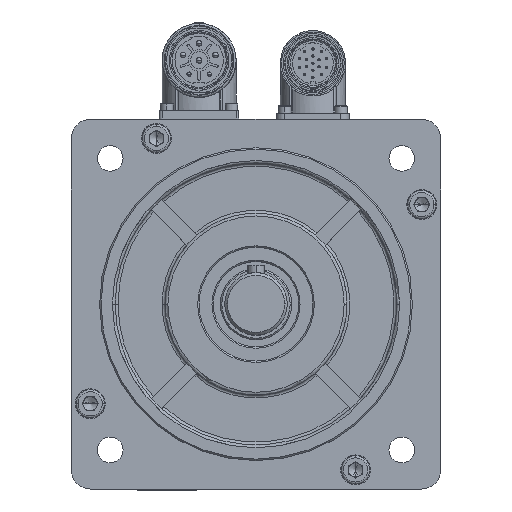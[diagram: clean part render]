
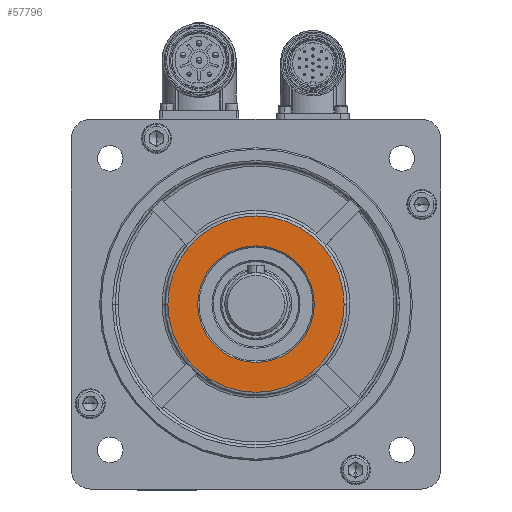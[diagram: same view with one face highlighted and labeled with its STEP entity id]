
A CAD part, top view. The second image highlights one B-rep face of the part: STEP entity #57796.
In plain terms, the highlighted planar face has unit normal (0, 0, 1).
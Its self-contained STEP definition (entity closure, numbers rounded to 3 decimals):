
#381 = EDGE_LOOP ( 'NONE', ( #22409, #61400 ) ) ;
#1006 = AXIS2_PLACEMENT_3D ( 'NONE', #55910, #45830, #34784 ) ;
#1648 = CIRCLE ( 'NONE', #14103, 20.5 ) ;
#4693 = CIRCLE ( 'NONE', #18771, 31. ) ;
#7554 = PLANE ( 'NONE',  #36052 ) ;
#12007 = CARTESIAN_POINT ( 'NONE',  ( 0., 0., 30.5 ) ) ;
#12711 = EDGE_CURVE ( 'NONE', #33100, #43124, #54708, .T. ) ;
#14103 = AXIS2_PLACEMENT_3D ( 'NONE', #51488, #18642, #41450 ) ;
#15136 = EDGE_CURVE ( 'NONE', #52739, #52259, #37163, .T. ) ;
#16781 = DIRECTION ( 'NONE',  ( 0., 0., -1. ) ) ;
#17283 = DIRECTION ( 'NONE',  ( -1., 0., 0. ) ) ;
#18642 = DIRECTION ( 'NONE',  ( 0., 0., -1. ) ) ;
#18771 = AXIS2_PLACEMENT_3D ( 'NONE', #12007, #61873, #17283 ) ;
#22409 = ORIENTED_EDGE ( 'NONE', *, *, #59034, .T. ) ;
#22411 = FACE_BOUND ( 'NONE', #381, .T. ) ;
#26662 = EDGE_CURVE ( 'NONE', #43124, #33100, #4693, .T. ) ;
#33100 = VERTEX_POINT ( 'NONE', #51371 ) ;
#33867 = CARTESIAN_POINT ( 'NONE',  ( -20.5, 0., 30.5 ) ) ;
#34644 = DIRECTION ( 'NONE',  ( -1., 0., 0. ) ) ;
#34784 = DIRECTION ( 'NONE',  ( -1., 0., 0. ) ) ;
#35944 = CARTESIAN_POINT ( 'NONE',  ( 31., 0., 30.5 ) ) ;
#36052 = AXIS2_PLACEMENT_3D ( 'NONE', #50959, #51422, #34644 ) ;
#37163 = CIRCLE ( 'NONE', #50776, 20.5 ) ;
#39326 = DIRECTION ( 'NONE',  ( -1., 0., 0. ) ) ;
#41450 = DIRECTION ( 'NONE',  ( -1., 0., 0. ) ) ;
#41852 = CARTESIAN_POINT ( 'NONE',  ( 20.5, 0., 30.5 ) ) ;
#42274 = EDGE_LOOP ( 'NONE', ( #68886, #48205 ) ) ;
#43124 = VERTEX_POINT ( 'NONE', #35944 ) ;
#44852 = CARTESIAN_POINT ( 'NONE',  ( 0., 0., 30.5 ) ) ;
#45830 = DIRECTION ( 'NONE',  ( 0., 0., 1. ) ) ;
#48205 = ORIENTED_EDGE ( 'NONE', *, *, #26662, .T. ) ;
#50776 = AXIS2_PLACEMENT_3D ( 'NONE', #44852, #16781, #39326 ) ;
#50959 = CARTESIAN_POINT ( 'NONE',  ( -58.113, -58.113, 30.5 ) ) ;
#51371 = CARTESIAN_POINT ( 'NONE',  ( -31., 0., 30.5 ) ) ;
#51422 = DIRECTION ( 'NONE',  ( 0., 0., -1. ) ) ;
#51488 = CARTESIAN_POINT ( 'NONE',  ( 0., 0., 30.5 ) ) ;
#52259 = VERTEX_POINT ( 'NONE', #41852 ) ;
#52739 = VERTEX_POINT ( 'NONE', #33867 ) ;
#54708 = CIRCLE ( 'NONE', #1006, 31. ) ;
#55910 = CARTESIAN_POINT ( 'NONE',  ( 0., 0., 30.5 ) ) ;
#57796 = ADVANCED_FACE ( 'NONE', ( #65360, #22411 ), #7554, .F. ) ;
#59034 = EDGE_CURVE ( 'NONE', #52259, #52739, #1648, .T. ) ;
#61400 = ORIENTED_EDGE ( 'NONE', *, *, #15136, .T. ) ;
#61873 = DIRECTION ( 'NONE',  ( 0., 0., 1. ) ) ;
#65360 = FACE_OUTER_BOUND ( 'NONE', #42274, .T. ) ;
#68886 = ORIENTED_EDGE ( 'NONE', *, *, #12711, .T. ) ;
